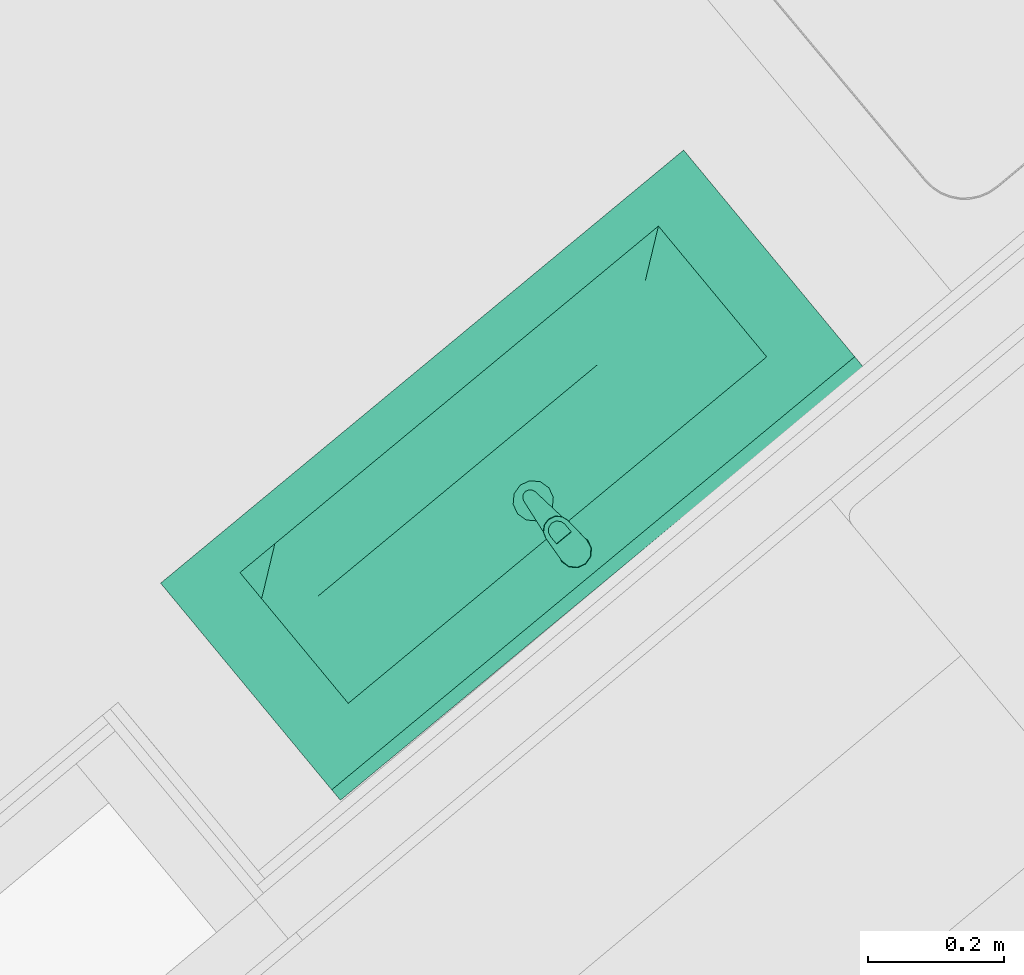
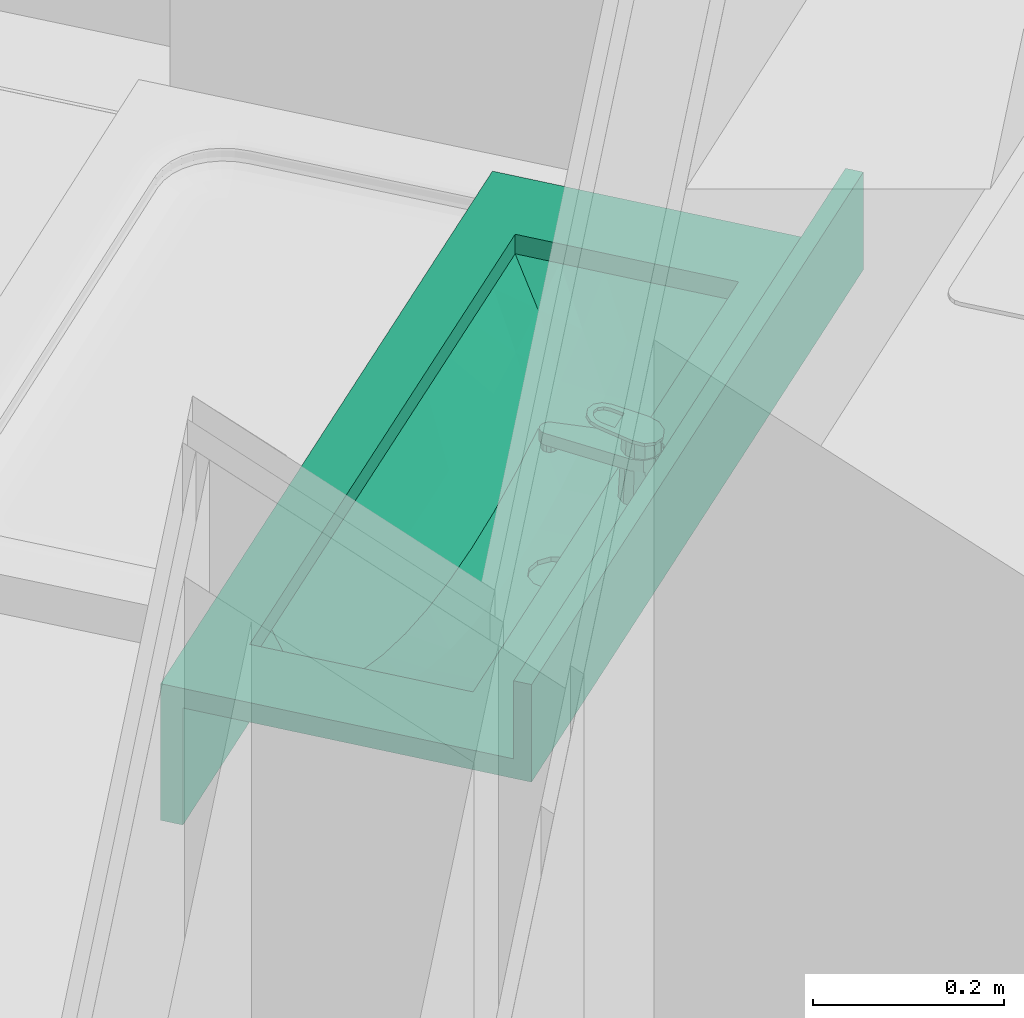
# One storey, part 57 of 61: 1 sanitary terminal.
"""IFC4 building model written with IfcOpenShell, lengths in metres."""

from ifc_helpers import new_model, entity, si_unit, converted_unit, derived_unit, direction, frame, origin_with_axes, place, context, subcontext, project, spatial, polygons, source, transform, mapped, type_object, element, save


model = new_model("IFC4")

# Units and contexts
model_context = context("Model", 3, precision=1e-05, world=origin_with_axes(), true_north=direction((0.0, 1.0)))
body_context = subcontext(model_context, "Body", "Model", "MODEL_VIEW")
ifc_project = project(units=[si_unit("LENGTHUNIT", "METRE"), si_unit("AREAUNIT", "SQUARE_METRE"), si_unit("VOLUMEUNIT", "CUBIC_METRE"), converted_unit("PLANEANGLEUNIT", "DEGREE", entity("IfcPlaneAngleMeasure", 0.0174532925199), si_unit("PLANEANGLEUNIT", "RADIAN"), dimensions=[0, 0, 0, 0, 0, 0, 0]), converted_unit("TIMEUNIT", "Year", entity("IfcTimeMeasure", 31556926.0), si_unit("TIMEUNIT", "SECOND"), dimensions=[0, 0, 1, 0, 0, 0, 0]), si_unit("MASSUNIT", "GRAM", prefix="KILO"), si_unit("THERMODYNAMICTEMPERATUREUNIT", "DEGREE_CELSIUS"), si_unit("LUMINOUSINTENSITYUNIT", "LUMEN"), si_unit("ENERGYUNIT", "JOULE", prefix="MEGA"), derived_unit("THERMALCONDUCTANCEUNIT", [(si_unit("POWERUNIT", "WATT"), 1), (si_unit("LENGTHUNIT", "METRE"), -1), (si_unit("THERMODYNAMICTEMPERATUREUNIT", "KELVIN"), -1)]), derived_unit("SPECIFICHEATCAPACITYUNIT", [(si_unit("ENERGYUNIT", "JOULE"), 1), (si_unit("MASSUNIT", "GRAM", prefix="KILO"), -1), (si_unit("THERMODYNAMICTEMPERATUREUNIT", "KELVIN"), -1)]), derived_unit("MASSDENSITYUNIT", [(si_unit("MASSUNIT", "GRAM", prefix="KILO"), 1), (si_unit("VOLUMEUNIT", "CUBIC_METRE"), -1)])], contexts=[model_context])

# Site, building, storey, space
site_placement = place(None, frame((-0.00153261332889, -0.00661245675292, 0.0), z_axis=(0.0, 0.0, 1.0), x_axis=(1.0, 0.0, 0.0)))
site = spatial("IfcSite", under=ifc_project, at=site_placement, Name="Gelände", CompositionType="ELEMENT")
building_placement = place(site_placement, origin_with_axes())
building = spatial("IfcBuilding", under=site, at=building_placement, Name="Gebäude", CompositionType="ELEMENT")
storey_placement = place(building_placement, frame((0.0, 0.0, 5.7), z_axis=(0.0, 0.0, 1.0), x_axis=(1.0, 0.0, 0.0)))
storey = spatial("IfcBuildingStorey", under=building, at=storey_placement, Name="DG1", CompositionType="ELEMENT", Elevation=5.7)
space_placement = place(storey_placement, frame((7.10032609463, 23.6820800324, 0.22), z_axis=(0.0, 0.0, 1.0), x_axis=(0.767365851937, 0.641209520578, 0.0)))
space = spatial("IfcSpace", under=storey, at=space_placement, CompositionType="ELEMENT", PredefinedType="NOTDEFINED")

# Sanitary terminal
sanitary_terminal_type = type_object("IfcSanitaryTerminalType", Name="Waschbecken mehrfach 26", PredefinedType="NOTDEFINED")
shared_shape = source(origin_with_axes(), body_context, "Body", "Tessellation", [
    polygons([(-0.5, 0.0, 0.875), (0.5, 0.0, 0.875), (0.5, -0.415119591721, 0.875), (-0.5, -0.415119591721, 0.875), (-0.4, -0.35255979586, 0.875), (0.4, -0.35255979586, 0.875), (0.4, -0.10255979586, 0.875), (-0.4, -0.10255979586, 0.875), (-0.5, 0.0, 0.9), (0.5, 0.0, 0.9), (0.5, -0.415119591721, 0.9), (-0.5, -0.415119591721, 0.9), (-0.4, -0.35255979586, 0.9), (0.4, -0.35255979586, 0.9), (0.4, -0.10255979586, 0.9), (-0.4, -0.10255979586, 0.9)], [[[1, 2, 3, 4], [5, 6, 7, 8]], [[1, 9, 10, 2]], [[2, 10, 11, 3]], [[3, 11, 12, 4]], [[4, 12, 9, 1]], [[13, 14, 6, 5]], [[14, 15, 7, 6]], [[15, 16, 8, 7]], [[16, 13, 5, 8]], [[11, 10, 9, 12], [13, 16, 15, 14]]], closed=True),
    polygons([(-0.5, -0.02, 0.9), (0.5, -0.02, 0.9), (0.5, -0.02, 1.0), (-0.5, -0.02, 1.0), (-0.5, 0.0, 0.9), (0.5, 0.0, 0.9), (0.5, 0.0, 1.0), (-0.5, 0.0, 1.0)], [[[1, 2, 3, 4]], [[1, 5, 6, 2]], [[2, 6, 7, 3]], [[4, 3, 7, 8]], [[5, 1, 4, 8]], [[6, 5, 8, 7]]], closed=True),
    polygons([(-0.5, -0.415119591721, 0.725), (0.5, -0.415119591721, 0.725), (0.5, -0.415119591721, 0.875), (-0.5, -0.415119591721, 0.875), (-0.5, -0.390119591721, 0.725), (0.5, -0.390119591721, 0.725), (0.5, -0.390119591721, 0.875), (-0.5, -0.390119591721, 0.875)], [[[1, 2, 3, 4]], [[1, 5, 6, 2]], [[2, 6, 7, 3]], [[4, 3, 7, 8]], [[5, 1, 4, 8]], [[6, 5, 8, 7]]], closed=True),
    polygons([(0.0, -0.18855104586, 0.775), (-0.015, -0.184531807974, 0.775589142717), (-0.0259807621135, -0.17355104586, 0.776020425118), (-0.03, -0.15855104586, 0.776178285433), (-0.0283946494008, -0.15255979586, 0.776115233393), (-0.0666666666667, -0.15255979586, 0.777618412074), (-0.0666666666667, -0.20255979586, 0.777618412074), (0.0, -0.20255979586, 0.775), (-0.015, -0.132570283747, 0.775589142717), (0.0, -0.12855104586, 0.775), (0.0, -0.10255979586, 0.775), (-0.0666666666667, -0.10255979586, 0.777618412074), (-0.0259807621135, -0.14355104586, 0.776020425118), (-0.133333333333, -0.15255979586, 0.785522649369), (-0.133333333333, -0.20255979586, 0.785522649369), (-0.0666666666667, -0.25255979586, 0.787498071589), (0.0666666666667, -0.15255979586, 0.777618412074), (0.0283946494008, -0.15255979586, 0.776115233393), (0.03, -0.15855104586, 0.776178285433), (0.0259807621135, -0.17355104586, 0.776020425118), (0.015, -0.184531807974, 0.775589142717), (0.0666666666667, -0.20255979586, 0.777618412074), (0.015, -0.132570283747, 0.775589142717), (0.0259807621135, -0.14355104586, 0.776020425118), (0.0666666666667, -0.10255979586, 0.777618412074), (0.2, -0.10255979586, 0.798864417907), (0.266666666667, -0.10255979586, 0.81791333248), (0.333333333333, -0.10255979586, 0.843086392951), (0.4, -0.10255979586, 0.875), (-0.4, -0.10255979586, 0.875), (-0.333333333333, -0.10255979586, 0.843086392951), (-0.266666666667, -0.10255979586, 0.81791333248), (-0.2, -0.10255979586, 0.798864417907), (-0.133333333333, -0.10255979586, 0.785522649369), (0.133333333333, -0.10255979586, 0.785522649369), (-0.2, -0.15255979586, 0.798864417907), (-0.2, -0.20255979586, 0.798864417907), (-0.133333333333, -0.25255979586, 0.794673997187), (0.0, -0.25255979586, 0.785118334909), (0.133333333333, -0.20255979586, 0.785522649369), (0.133333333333, -0.15255979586, 0.785522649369), (0.266666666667, -0.15255979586, 0.81791333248), (0.2, -0.15255979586, 0.798864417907), (0.333333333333, -0.15255979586, 0.843086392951), (0.4, -0.15255979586, 0.875), (-0.333333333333, -0.15255979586, 0.843086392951), (-0.4, -0.15255979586, 0.875), (-0.266666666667, -0.15255979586, 0.81791333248), (-0.266666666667, -0.20255979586, 0.81791333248), (-0.2, -0.25255979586, 0.80675915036), (-0.0666666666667, -0.30255979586, 0.828578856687), (-0.133333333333, -0.30255979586, 0.832507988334), (0.0666666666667, -0.25255979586, 0.787498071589), (0.2, -0.20255979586, 0.798864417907), (0.266666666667, -0.20255979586, 0.81791333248), (0.333333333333, -0.20255979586, 0.843086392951), (0.4, -0.20255979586, 0.875), (0.4, -0.25255979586, 0.875), (0.4, -0.30255979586, 0.875), (0.4, -0.35255979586, 0.875), (-0.4, -0.25255979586, 0.875), (-0.4, -0.20255979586, 0.875), (-0.4, -0.35255979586, 0.875), (-0.4, -0.30255979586, 0.875), (-0.333333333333, -0.20255979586, 0.843086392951), (-0.266666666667, -0.25255979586, 0.823952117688), (-0.2, -0.30255979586, 0.839076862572), (0.0, -0.30255979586, 0.827271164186), (0.133333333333, -0.25255979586, 0.794673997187), (0.2, -0.25255979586, 0.80675915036), (0.266666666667, -0.25255979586, 0.823952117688), (0.333333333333, -0.25255979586, 0.846554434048), (0.333333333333, -0.30255979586, 0.860271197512), (0.333333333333, -0.35255979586, 0.875), (-0.333333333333, -0.30255979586, 0.860271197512), (-0.333333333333, -0.25255979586, 0.846554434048), (-0.266666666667, -0.30255979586, 0.848316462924), (-0.0666666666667, -0.35255979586, 0.875), (-0.133333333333, -0.35255979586, 0.875), (-0.2, -0.35255979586, 0.875), (0.0666666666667, -0.30255979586, 0.828578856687), (-0.266666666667, -0.35255979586, 0.875), (-0.333333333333, -0.35255979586, 0.875), (0.266666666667, -0.35255979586, 0.875), (0.2, -0.35255979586, 0.875), (0.133333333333, -0.35255979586, 0.875), (0.0666666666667, -0.35255979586, 0.875), (0.0, -0.35255979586, 0.875), (0.133333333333, -0.30255979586, 0.832507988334), (0.2, -0.30255979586, 0.839076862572), (0.266666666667, -0.30255979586, 0.848316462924)], [[[1, 2, 3, 4, 5, 6, 7, 8]], [[9, 10, 11, 12, 6, 5, 13]], [[7, 6, 14, 15]], [[16, 8, 7]], [[17, 18, 19, 20, 21, 1, 8, 22]], [[10, 23, 24, 18, 17, 25, 11]], [[26, 27, 28, 29, 30, 31, 32, 33, 34, 12, 11, 25, 35]], [[6, 12, 34, 14]], [[15, 14, 36, 37]], [[38, 7, 15]], [[16, 39, 8]], [[38, 16, 7]], [[39, 22, 8]], [[40, 41, 17, 22]], [[41, 35, 25, 17]], [[42, 27, 26, 43]], [[44, 28, 27, 42]], [[45, 29, 28, 44]], [[46, 31, 30, 47]], [[48, 32, 31, 46]], [[36, 33, 32, 48]], [[14, 34, 33, 36]], [[43, 26, 35, 41]], [[37, 36, 48, 49]], [[50, 15, 37]], [[50, 38, 15]], [[51, 39, 16]], [[52, 16, 38]], [[39, 53, 22]], [[54, 43, 41, 40]], [[53, 40, 22]], [[55, 42, 43, 54]], [[56, 44, 42, 55]], [[57, 58, 59, 60, 29, 45]], [[57, 45, 44, 56]], [[61, 62, 47, 30, 63, 64]], [[65, 46, 47, 62]], [[49, 48, 46, 65]], [[66, 37, 49]], [[66, 50, 37]], [[67, 38, 50]], [[51, 68, 39]], [[52, 51, 16]], [[67, 52, 38]], [[68, 53, 39]], [[69, 54, 40]], [[53, 69, 40]], [[70, 55, 54]], [[71, 56, 55]], [[72, 58, 57]], [[73, 59, 58]], [[74, 60, 59]], [[72, 57, 56]], [[61, 65, 62]], [[63, 75, 64]], [[64, 76, 61]], [[76, 49, 65]], [[76, 66, 49]], [[77, 50, 66]], [[77, 67, 50]], [[78, 68, 51]], [[79, 51, 52]], [[80, 52, 67]], [[68, 81, 53]], [[69, 70, 54]], [[81, 69, 53]], [[70, 71, 55]], [[71, 72, 56]], [[73, 58, 72]], [[74, 59, 73]], [[80, 82, 83, 63, 60, 74, 84, 85, 86, 87, 88, 78, 79]], [[61, 76, 65]], [[63, 83, 75]], [[64, 75, 76]], [[75, 66, 76]], [[75, 77, 66]], [[82, 67, 77]], [[78, 88, 68]], [[79, 78, 51]], [[80, 79, 52]], [[82, 80, 67]], [[88, 81, 68]], [[89, 70, 69]], [[81, 89, 69]], [[90, 71, 70]], [[91, 72, 71]], [[91, 73, 72]], [[84, 74, 73]], [[83, 82, 77]], [[85, 84, 91]], [[86, 85, 90]], [[87, 86, 89]], [[88, 87, 81]], [[83, 77, 75]], [[89, 90, 70]], [[87, 89, 81]], [[90, 91, 71]], [[84, 73, 91]], [[85, 91, 90]], [[86, 90, 89]]], closed=False),
    polygons([(0.03, -0.15855104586, 0.776178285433), (0.0259807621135, -0.17355104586, 0.776020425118), (0.0259807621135, -0.17355104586, 0.77), (0.03, -0.15855104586, 0.77), (0.015, -0.184531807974, 0.775589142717), (0.015, -0.184531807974, 0.77), (0.0, -0.12855104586, 0.77), (0.015, -0.132570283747, 0.77), (0.0259807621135, -0.14355104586, 0.77), (0.0, -0.18855104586, 0.77), (-0.015, -0.184531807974, 0.77), (-0.0259807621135, -0.17355104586, 0.77), (-0.03, -0.15855104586, 0.77), (-0.0259807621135, -0.14355104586, 0.77), (-0.015, -0.132570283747, 0.77), (0.0259807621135, -0.14355104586, 0.776020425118), (0.0, -0.18855104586, 0.775), (0.0, -0.12855104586, 0.775), (0.015, -0.132570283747, 0.775589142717), (-0.015, -0.184531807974, 0.775589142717), (-0.0259807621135, -0.17355104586, 0.776020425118), (-0.03, -0.15855104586, 0.776178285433), (-0.0259807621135, -0.14355104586, 0.776020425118), (-0.015, -0.132570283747, 0.775589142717)], [[[1, 2, 3, 4]], [[2, 5, 6, 3]], [[7, 8, 9, 4, 3, 6, 10, 11, 12, 13, 14, 15]], [[16, 1, 4, 9]], [[5, 17, 10, 6]], [[18, 19, 8, 7]], [[19, 16, 9, 8]], [[17, 20, 11, 10]], [[20, 21, 12, 11]], [[21, 22, 13, 12]], [[22, 23, 14, 13]], [[23, 24, 15, 14]], [[24, 18, 7, 15]]], closed=False),
    polygons([(0.0125, -0.0409091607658, 0.9), (0.0, -0.0375597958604, 0.9), (0.0, -0.0413578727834, 0.975961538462), (0.0105873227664, -0.0442220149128, 0.976507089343), (0.0216506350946, -0.0500597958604, 0.9), (0.025, -0.0625597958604, 0.9), (0.0216506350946, -0.0750597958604, 0.9), (0.0125, -0.084210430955, 0.9), (0.0, -0.0875597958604, 0.9), (-0.0125, -0.084210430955, 0.9), (-0.0216506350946, -0.0750597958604, 0.9), (-0.025, -0.0625597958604, 0.9), (-0.0216506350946, -0.0500597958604, 0.9), (-0.0125, -0.0409091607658, 0.9), (-0.0105873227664, -0.0442220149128, 0.976507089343), (-0.0182735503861, -0.0520095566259, 0.977990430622), (-0.021, -0.0625597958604, 0.98), (-0.0181003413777, -0.0730100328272, 0.981990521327), (-0.0104141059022, -0.0805975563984, 0.983435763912), (0.0, -0.0833616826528, 0.983962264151), (0.0104141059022, -0.0805975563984, 0.983435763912), (0.0181003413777, -0.0730100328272, 0.981990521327), (0.021, -0.0625597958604, 0.98), (0.0182735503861, -0.0520095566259, 0.977990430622)], [[[1, 2, 3, 4]], [[1, 5, 6, 7, 8, 9, 10, 11, 12, 13, 14, 2]], [[2, 14, 15, 3]], [[4, 3, 15, 16, 17, 18, 19, 20, 21, 22, 23, 24]], [[5, 1, 4, 24]], [[6, 5, 24, 23]], [[7, 6, 23, 22]], [[8, 7, 22, 21]], [[9, 8, 21, 20]], [[10, 9, 20, 19]], [[11, 10, 19, 18]], [[12, 11, 18, 17]], [[13, 12, 17, 16]], [[14, 13, 16, 15]]], closed=True),
    polygons([(0.009, -0.16555979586, 0.935), (0.00779422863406, -0.16105979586, 0.935), (0.00779422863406, -0.16105979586, 0.945), (0.009, -0.16555979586, 0.945), (0.00779422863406, -0.17005979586, 0.935), (0.0045, -0.173354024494, 0.935), (0.0, -0.17455979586, 0.935), (-0.0045, -0.173354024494, 0.935), (-0.00779422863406, -0.17005979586, 0.935), (-0.009, -0.16555979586, 0.935), (-0.00779422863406, -0.16105979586, 0.935), (-0.0045, -0.157765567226, 0.935), (0.0, -0.15655979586, 0.935), (0.0045, -0.157765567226, 0.935), (0.0045, -0.157765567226, 0.945), (0.0, -0.15655979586, 0.945), (-0.0045, -0.157765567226, 0.945), (-0.00779422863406, -0.16105979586, 0.945), (-0.009, -0.16555979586, 0.945), (-0.00779422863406, -0.17005979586, 0.945), (-0.0045, -0.173354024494, 0.945), (0.0, -0.17455979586, 0.945), (0.0045, -0.173354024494, 0.945), (0.00779422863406, -0.17005979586, 0.945)], [[[1, 2, 3, 4]], [[1, 5, 6, 7, 8, 9, 10, 11, 12, 13, 14, 2]], [[2, 14, 15, 3]], [[4, 3, 15, 16, 17, 18, 19, 20, 21, 22, 23, 24]], [[5, 1, 4, 24]], [[6, 5, 24, 23]], [[7, 6, 23, 22]], [[8, 7, 22, 21]], [[9, 8, 21, 20]], [[10, 9, 20, 19]], [[11, 10, 19, 18]], [[12, 11, 18, 17]], [[13, 12, 17, 16]], [[14, 13, 16, 15]]], closed=True),
    polygons([(-0.0128717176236, -0.0423034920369, 0.96), (-0.021727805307, -0.0523665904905, 0.96), (-0.0238054, -0.0656096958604, 0.96), (-0.010911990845, -0.166948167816, 0.96), (-0.00902887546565, -0.17184299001, 0.96), (-0.00509332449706, -0.175309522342, 0.96), (3.62679860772e-08, -0.176559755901, 0.96), (0.00509338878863, -0.175309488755, 0.96), (0.00902891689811, -0.171842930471, 0.96), (0.010912, -0.16694809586, 0.96), (0.0238053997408, -0.0656096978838, 0.96), (0.0217278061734, -0.0523665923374, 0.96), (0.0128717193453, -0.042303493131, 0.96), (1.01998896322e-09, -0.0385598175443, 0.96), (0.011, -0.0435072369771, 0.96), (0.0190525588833, -0.0515597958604, 0.96), (0.022, -0.0625597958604, 0.96), (0.0190525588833, -0.0735597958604, 0.96), (0.011, -0.0816123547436, 0.96), (0.0, -0.0845597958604, 0.96), (-0.011, -0.0816123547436, 0.96), (-0.0190525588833, -0.0735597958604, 0.96), (-0.022, -0.0625597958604, 0.96), (-0.0190525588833, -0.0515597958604, 0.96), (-0.011, -0.0435072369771, 0.96), (0.0, -0.0405597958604, 0.96), (-0.021727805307, -0.0523665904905, 0.945), (-0.0128717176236, -0.0423034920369, 0.945), (-0.0238054, -0.0656096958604, 0.945), (-0.010911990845, -0.166948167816, 0.945), (-0.00902887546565, -0.17184299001, 0.945), (-0.00509332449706, -0.175309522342, 0.945), (3.62679860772e-08, -0.176559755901, 0.945), (0.00509338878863, -0.175309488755, 0.945), (0.00902891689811, -0.171842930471, 0.945), (0.010912, -0.16694809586, 0.945), (0.0238053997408, -0.0656096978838, 0.945), (0.0217278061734, -0.0523665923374, 0.945), (0.0128717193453, -0.042303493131, 0.945), (1.01998896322e-09, -0.0385598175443, 0.945), (0.011375, -0.0428577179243, 0.945), (0.0197020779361, -0.0511847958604, 0.945), (0.02275, -0.0625597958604, 0.945), (0.0197020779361, -0.0739347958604, 0.945), (0.011375, -0.0822618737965, 0.945), (0.0, -0.0853097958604, 0.945), (-0.011375, -0.0822618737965, 0.945), (-0.0197020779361, -0.0739347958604, 0.945), (-0.02275, -0.0625597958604, 0.945), (-0.0197020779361, -0.0511847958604, 0.945), (-0.011375, -0.0428577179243, 0.945), (0.0, -0.0398097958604, 0.945)], [[[1, 2, 3, 4, 5, 6, 7, 8, 9, 10, 11, 12, 13, 14], [15, 16, 17, 18, 19, 20, 21, 22, 23, 24, 25, 26]], [[27, 2, 1, 28]], [[29, 3, 2, 27]], [[30, 4, 3, 29]], [[31, 5, 4, 30]], [[32, 6, 5, 31]], [[33, 7, 6, 32]], [[34, 8, 7, 33]], [[35, 9, 8, 34]], [[36, 10, 9, 35]], [[37, 11, 10, 36]], [[38, 12, 11, 37]], [[39, 13, 12, 38]], [[40, 14, 13, 39]], [[28, 1, 14, 40]], [[41, 42, 16, 15]], [[42, 43, 17, 16]], [[43, 44, 18, 17]], [[44, 45, 19, 18]], [[45, 46, 20, 19]], [[21, 20, 46, 47]], [[22, 21, 47, 48]], [[23, 22, 48, 49]], [[24, 23, 49, 50]], [[25, 24, 50, 51]], [[51, 52, 26, 25]], [[52, 41, 15, 26]], [[33, 32, 31, 30, 29, 27, 28, 40, 39, 38, 37, 36, 35, 34], [45, 44, 43, 42, 41, 52, 51, 50, 49, 48, 47, 46]]], closed=True),
    polygons([(0.023893, -0.0642523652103, 0.980322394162), (0.0212964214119, -0.0517850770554, 0.977947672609), (0.0212964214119, -0.0510366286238, 0.981877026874), (0.023893, -0.0635039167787, 0.984251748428), (0.0209459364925, -0.104396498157, 0.987968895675), (0.0176631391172, -0.114074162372, 0.989812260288), (0.0100614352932, -0.121023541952, 0.991135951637), (-4.42652908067e-07, -0.123545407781, 0.991616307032), (-0.0100622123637, -0.121023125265, 0.991135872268), (-0.0176636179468, -0.114073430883, 0.989812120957), (-0.020946, -0.104395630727, 0.987968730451), (-0.023893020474, -0.0642520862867, 0.980322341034), (-0.0212962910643, -0.0517848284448, 0.977947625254), (-0.0124716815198, -0.0424685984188, 0.976173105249), (1.42337785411e-07, -0.0390278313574, 0.975517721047), (0.0124719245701, -0.0424687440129, 0.976173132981), (0.014, -0.0881005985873, 0.984864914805), (-0.014, -0.0881005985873, 0.984864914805), (-0.014, -0.102916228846, 0.987686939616), (-0.012124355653, -0.109792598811, 0.988996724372), (-0.007, -0.114826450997, 0.989955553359), (0.0, -0.116668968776, 0.990306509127), (0.007, -0.114826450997, 0.989955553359), (0.012124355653, -0.109792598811, 0.988996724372), (0.014, -0.102916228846, 0.987686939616), (0.0124719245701, -0.0417202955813, 0.980102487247), (1.42337785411e-07, -0.0382793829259, 0.979447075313), (-0.0124716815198, -0.0417201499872, 0.980102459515), (-0.0212962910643, -0.0510363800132, 0.98187697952), (-0.023893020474, -0.0635036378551, 0.984251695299), (-0.020946, -0.103647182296, 0.991898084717), (-0.0176636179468, -0.113324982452, 0.993741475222), (-0.0100622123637, -0.120274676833, 0.995065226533), (-4.42652908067e-07, -0.122796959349, 0.995545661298), (0.0100614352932, -0.120275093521, 0.995065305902), (0.0176631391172, -0.11332571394, 0.993741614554), (0.0209459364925, -0.103648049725, 0.991898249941), (0.014, -0.0873521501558, 0.988794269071), (0.014, -0.102167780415, 0.991616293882), (0.012124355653, -0.10904415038, 0.992926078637), (0.007, -0.114078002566, 0.993884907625), (0.0, -0.115920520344, 0.994235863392), (-0.007, -0.114078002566, 0.993884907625), (-0.012124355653, -0.10904415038, 0.992926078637), (-0.014, -0.102167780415, 0.991616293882), (-0.014, -0.0873521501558, 0.988794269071)], [[[1, 2, 3, 4]], [[1, 5, 6, 7, 8, 9, 10, 11, 12, 13, 14, 15, 16, 2], [17, 18, 19, 20, 21, 22, 23, 24, 25]], [[2, 16, 26, 3]], [[4, 3, 26, 27, 28, 29, 30, 31, 32, 33, 34, 35, 36, 37], [38, 39, 40, 41, 42, 43, 44, 45, 46]], [[5, 1, 4, 37]], [[6, 5, 37, 36]], [[7, 6, 36, 35]], [[8, 7, 35, 34]], [[9, 8, 34, 33]], [[10, 9, 33, 32]], [[11, 10, 32, 31]], [[12, 11, 31, 30]], [[13, 12, 30, 29]], [[14, 13, 29, 28]], [[15, 14, 28, 27]], [[16, 15, 27, 26]], [[18, 17, 38, 46]], [[19, 18, 46, 45]], [[20, 19, 45, 44]], [[21, 20, 44, 43]], [[22, 21, 43, 42]], [[23, 22, 42, 41]], [[24, 23, 41, 40]], [[25, 24, 40, 39]], [[17, 25, 39, 38]]], closed=True),
])
sanitary_terminal_placement = place(space_placement, frame((0.659537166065, 0.000160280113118, -0.075), z_axis=(0.0, 0.0, 1.0), x_axis=(-0.999990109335, 0.00444760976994, 0.0)))
element("IfcSanitaryTerminal", 1, at=sanitary_terminal_placement, inside=space, type_object=sanitary_terminal_type, Name="Objekt-0009", PredefinedType="NOTDEFINED", context=body_context, shape_type="MappedRepresentation", body=[
    mapped(shared_shape, transform((0.0, 0.0, 0.0))),
])

save(model, "model.ifc")
